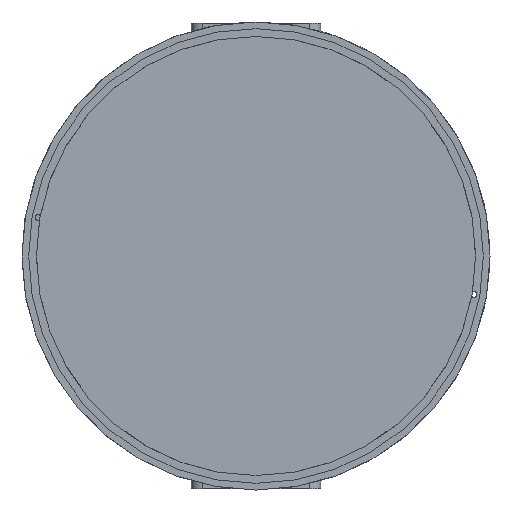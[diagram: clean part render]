
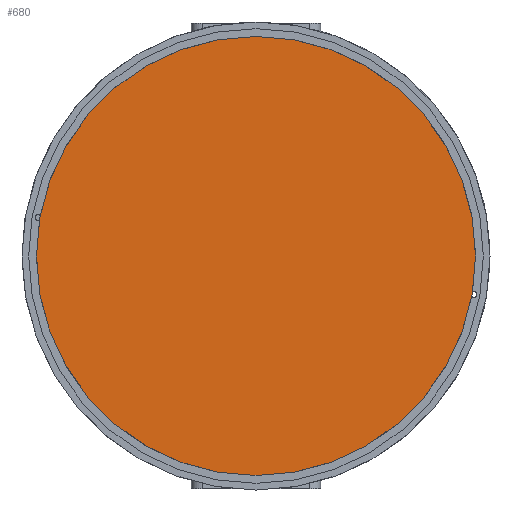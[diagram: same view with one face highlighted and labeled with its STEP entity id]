
A CAD part, front view. The second image highlights one B-rep face of the part: STEP entity #680.
In plain terms, the highlighted planar face has unit normal (0, -1, 0).
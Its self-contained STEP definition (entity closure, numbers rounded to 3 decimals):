
#680 = ADVANCED_FACE ( 'NONE', ( #2386 ), #5041, .T. ) ;
#720 = DIRECTION ( 'NONE',  ( 0., -1., 0. ) ) ;
#1297 = ORIENTED_EDGE ( 'NONE', *, *, #3199, .T. ) ;
#1440 = DIRECTION ( 'NONE',  ( 0., 0., -1. ) ) ;
#1688 = CARTESIAN_POINT ( 'NONE',  ( 0., 0., 0. ) ) ;
#1918 = AXIS2_PLACEMENT_3D ( 'NONE', #4492, #720, #2893 ) ;
#2386 = FACE_OUTER_BOUND ( 'NONE', #7024, .T. ) ;
#2500 = CIRCLE ( 'NONE', #4671, 197. ) ;
#2893 = DIRECTION ( 'NONE',  ( 0., 0., -1. ) ) ;
#3199 = EDGE_CURVE ( 'NONE', #3823, #3823, #2500, .T. ) ;
#3823 = VERTEX_POINT ( 'NONE', #3964 ) ;
#3964 = CARTESIAN_POINT ( 'NONE',  ( 0., 0., -197. ) ) ;
#4492 = CARTESIAN_POINT ( 'NONE',  ( 0., 0., 0. ) ) ;
#4671 = AXIS2_PLACEMENT_3D ( 'NONE', #1688, #4911, #1440 ) ;
#4911 = DIRECTION ( 'NONE',  ( 0., -1., 0. ) ) ;
#5041 = PLANE ( 'NONE',  #1918 ) ;
#7024 = EDGE_LOOP ( 'NONE', ( #1297 ) ) ;
